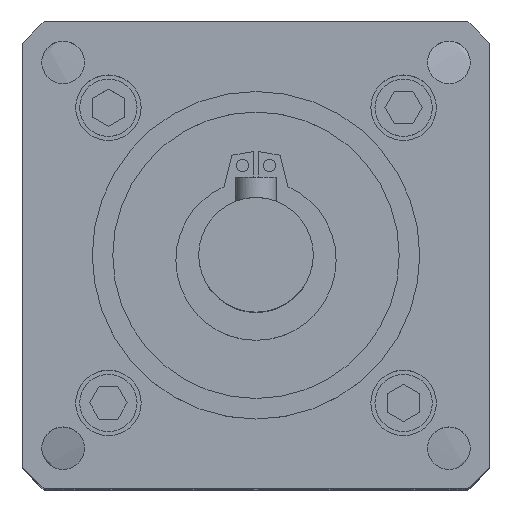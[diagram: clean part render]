
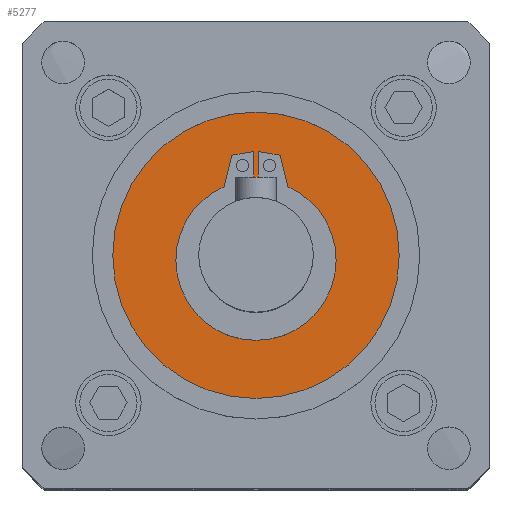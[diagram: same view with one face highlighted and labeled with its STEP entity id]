
A CAD part, top view. The second image highlights one B-rep face of the part: STEP entity #5277.
In plain terms, the highlighted planar face has unit normal (0, 0, 1).
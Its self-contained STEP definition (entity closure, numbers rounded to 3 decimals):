
#4 = FACE_BOUND ( 'NONE', #4392, .T. ) ;
#35 = AXIS2_PLACEMENT_3D ( 'NONE', #5268, #5875, #3973 ) ;
#42 = CIRCLE ( 'NONE', #35, 9.785 ) ;
#49 = CARTESIAN_POINT ( 'NONE',  ( 3.89, 8.378, 96. ) ) ;
#197 = LINE ( 'NONE', #1584, #3103 ) ;
#272 = VERTEX_POINT ( 'NONE', #4343 ) ;
#481 = CARTESIAN_POINT ( 'NONE',  ( -17.5, 0., 96. ) ) ;
#504 = CARTESIAN_POINT ( 'NONE',  ( -0.3, 9.185, 96. ) ) ;
#537 = DIRECTION ( 'NONE',  ( -0.985, 0.174, 0. ) ) ;
#567 = EDGE_CURVE ( 'NONE', #272, #3321, #8001, .T. ) ;
#650 = CIRCLE ( 'NONE', #6380, 17.5 ) ;
#1164 = EDGE_CURVE ( 'NONE', #5747, #4447, #650, .T. ) ;
#1224 = CARTESIAN_POINT ( 'NONE',  ( 0.3, 12.685, 96. ) ) ;
#1255 = CARTESIAN_POINT ( 'NONE',  ( 0., 0., 96. ) ) ;
#1502 = ORIENTED_EDGE ( 'NONE', *, *, #567, .F. ) ;
#1506 = DIRECTION ( 'NONE',  ( 1., 0., 0. ) ) ;
#1580 = VERTEX_POINT ( 'NONE', #6011 ) ;
#1584 = CARTESIAN_POINT ( 'NONE',  ( -0.3, 12.685, 96. ) ) ;
#1605 = VERTEX_POINT ( 'NONE', #7880 ) ;
#1752 = DIRECTION ( 'NONE',  ( -0.236, -0.972, 0. ) ) ;
#1788 = EDGE_CURVE ( 'NONE', #6754, #1580, #3406, .T. ) ;
#1796 = CARTESIAN_POINT ( 'NONE',  ( -2.959, 12.216, 96. ) ) ;
#1862 = ORIENTED_EDGE ( 'NONE', *, *, #6255, .F. ) ;
#1894 = FACE_OUTER_BOUND ( 'NONE', #4151, .T. ) ;
#2010 = EDGE_CURVE ( 'NONE', #6201, #5815, #3758, .T. ) ;
#2054 = CIRCLE ( 'NONE', #7110, 9.785 ) ;
#2199 = DIRECTION ( 'NONE',  ( 1., 0., 0. ) ) ;
#2263 = DIRECTION ( 'NONE',  ( -0.236, 0.972, 0. ) ) ;
#2294 = EDGE_CURVE ( 'NONE', #5280, #6201, #7811, .T. ) ;
#2302 = DIRECTION ( 'NONE',  ( 0., 0., 1. ) ) ;
#2473 = ORIENTED_EDGE ( 'NONE', *, *, #2811, .F. ) ;
#2491 = CARTESIAN_POINT ( 'NONE',  ( -0.3, 9.185, 96. ) ) ;
#2494 = PLANE ( 'NONE',  #3706 ) ;
#2608 = EDGE_CURVE ( 'NONE', #5815, #1605, #4143, .T. ) ;
#2743 = CARTESIAN_POINT ( 'NONE',  ( 9.785, -0.6, 96. ) ) ;
#2785 = CARTESIAN_POINT ( 'NONE',  ( 0., -0.6, 96. ) ) ;
#2811 = EDGE_CURVE ( 'NONE', #3654, #4096, #42, .T. ) ;
#2954 = ORIENTED_EDGE ( 'NONE', *, *, #2608, .F. ) ;
#2965 = LINE ( 'NONE', #504, #5905 ) ;
#3067 = DIRECTION ( 'NONE',  ( 0., 0., 1. ) ) ;
#3103 = VECTOR ( 'NONE', #4061, 1000. ) ;
#3247 = ORIENTED_EDGE ( 'NONE', *, *, #3851, .F. ) ;
#3321 = VERTEX_POINT ( 'NONE', #6073 ) ;
#3406 = LINE ( 'NONE', #6405, #5607 ) ;
#3643 = DIRECTION ( 'NONE',  ( -1., 0., 0. ) ) ;
#3654 = VERTEX_POINT ( 'NONE', #5837 ) ;
#3706 = AXIS2_PLACEMENT_3D ( 'NONE', #7447, #3753, #6235 ) ;
#3753 = DIRECTION ( 'NONE',  ( 0., 0., -1. ) ) ;
#3758 = LINE ( 'NONE', #1224, #7054 ) ;
#3851 = EDGE_CURVE ( 'NONE', #1605, #6754, #2965, .T. ) ;
#3855 = DIRECTION ( 'NONE',  ( 0., 1., 0. ) ) ;
#3937 = VECTOR ( 'NONE', #6013, 1000. ) ;
#3955 = ORIENTED_EDGE ( 'NONE', *, *, #6691, .F. ) ;
#3973 = DIRECTION ( 'NONE',  ( 1., 0., 0. ) ) ;
#4061 = DIRECTION ( 'NONE',  ( -0.985, -0.174, 0. ) ) ;
#4096 = VERTEX_POINT ( 'NONE', #2743 ) ;
#4143 = LINE ( 'NONE', #4793, #3937 ) ;
#4151 = EDGE_LOOP ( 'NONE', ( #4619, #7994 ) ) ;
#4230 = AXIS2_PLACEMENT_3D ( 'NONE', #2785, #7743, #2199 ) ;
#4343 = CARTESIAN_POINT ( 'NONE',  ( -2.959, 12.216, 96. ) ) ;
#4392 = EDGE_LOOP ( 'NONE', ( #1862, #1502, #6220, #5825, #3247, #2954, #4831, #4987, #3955, #2473 ) ) ;
#4447 = VERTEX_POINT ( 'NONE', #481 ) ;
#4494 = CIRCLE ( 'NONE', #6590, 17.5 ) ;
#4496 = CARTESIAN_POINT ( 'NONE',  ( 17.5, 0., 96. ) ) ;
#4619 = ORIENTED_EDGE ( 'NONE', *, *, #6722, .T. ) ;
#4767 = DIRECTION ( 'NONE',  ( 1., 0., 0. ) ) ;
#4793 = CARTESIAN_POINT ( 'NONE',  ( 0.3, 9.185, 96. ) ) ;
#4831 = ORIENTED_EDGE ( 'NONE', *, *, #2010, .F. ) ;
#4987 = ORIENTED_EDGE ( 'NONE', *, *, #2294, .F. ) ;
#5268 = CARTESIAN_POINT ( 'NONE',  ( 0., -0.6, 96. ) ) ;
#5277 = ADVANCED_FACE ( 'NONE', ( #4, #1894 ), #2494, .F. ) ;
#5280 = VERTEX_POINT ( 'NONE', #49 ) ;
#5533 = CIRCLE ( 'NONE', #4230, 9.785 ) ;
#5607 = VECTOR ( 'NONE', #3855, 1000. ) ;
#5747 = VERTEX_POINT ( 'NONE', #4496 ) ;
#5815 = VERTEX_POINT ( 'NONE', #6541 ) ;
#5825 = ORIENTED_EDGE ( 'NONE', *, *, #1788, .F. ) ;
#5837 = CARTESIAN_POINT ( 'NONE',  ( -9.785, -0.6, 96. ) ) ;
#5875 = DIRECTION ( 'NONE',  ( 0., 0., 1. ) ) ;
#5905 = VECTOR ( 'NONE', #3643, 1000. ) ;
#6011 = CARTESIAN_POINT ( 'NONE',  ( -0.3, 12.685, 96. ) ) ;
#6013 = DIRECTION ( 'NONE',  ( 0., -1., 0. ) ) ;
#6073 = CARTESIAN_POINT ( 'NONE',  ( -3.89, 8.378, 96. ) ) ;
#6201 = VERTEX_POINT ( 'NONE', #6486 ) ;
#6220 = ORIENTED_EDGE ( 'NONE', *, *, #7814, .F. ) ;
#6230 = DIRECTION ( 'NONE',  ( 1., 0., 0. ) ) ;
#6235 = DIRECTION ( 'NONE',  ( -1., 0., 0. ) ) ;
#6255 = EDGE_CURVE ( 'NONE', #3321, #3654, #5533, .T. ) ;
#6380 = AXIS2_PLACEMENT_3D ( 'NONE', #7683, #7087, #1506 ) ;
#6405 = CARTESIAN_POINT ( 'NONE',  ( -0.3, 9.185, 96. ) ) ;
#6486 = CARTESIAN_POINT ( 'NONE',  ( 2.959, 12.216, 96. ) ) ;
#6541 = CARTESIAN_POINT ( 'NONE',  ( 0.3, 12.685, 96. ) ) ;
#6590 = AXIS2_PLACEMENT_3D ( 'NONE', #1255, #3067, #6230 ) ;
#6652 = VECTOR ( 'NONE', #1752, 1000. ) ;
#6691 = EDGE_CURVE ( 'NONE', #4096, #5280, #2054, .T. ) ;
#6722 = EDGE_CURVE ( 'NONE', #4447, #5747, #4494, .T. ) ;
#6754 = VERTEX_POINT ( 'NONE', #2491 ) ;
#7054 = VECTOR ( 'NONE', #537, 1000. ) ;
#7058 = VECTOR ( 'NONE', #2263, 1000. ) ;
#7087 = DIRECTION ( 'NONE',  ( 0., 0., 1. ) ) ;
#7110 = AXIS2_PLACEMENT_3D ( 'NONE', #7852, #2302, #4767 ) ;
#7177 = CARTESIAN_POINT ( 'NONE',  ( 2.959, 12.216, 96. ) ) ;
#7447 = CARTESIAN_POINT ( 'NONE',  ( 0., 0., 96. ) ) ;
#7683 = CARTESIAN_POINT ( 'NONE',  ( 0., 0., 96. ) ) ;
#7743 = DIRECTION ( 'NONE',  ( 0., 0., 1. ) ) ;
#7811 = LINE ( 'NONE', #7177, #7058 ) ;
#7814 = EDGE_CURVE ( 'NONE', #1580, #272, #197, .T. ) ;
#7852 = CARTESIAN_POINT ( 'NONE',  ( 0., -0.6, 96. ) ) ;
#7880 = CARTESIAN_POINT ( 'NONE',  ( 0.3, 9.185, 96. ) ) ;
#7994 = ORIENTED_EDGE ( 'NONE', *, *, #1164, .T. ) ;
#8001 = LINE ( 'NONE', #1796, #6652 ) ;
